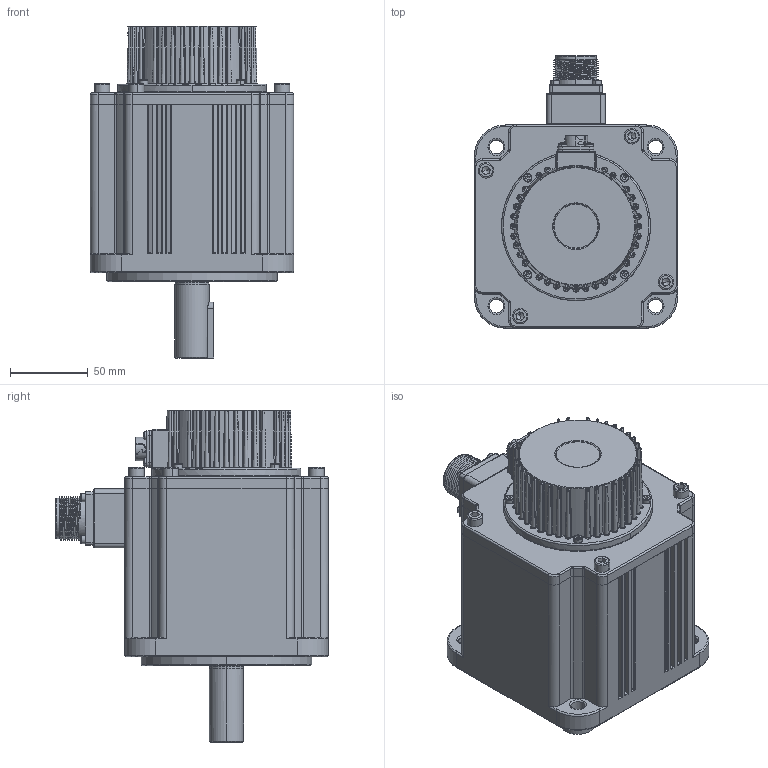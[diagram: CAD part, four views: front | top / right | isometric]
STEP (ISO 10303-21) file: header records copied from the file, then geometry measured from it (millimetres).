
FILE_DESCRIPTION (( 'STEP AP203' ), '1' );
FILE_NAME ('V9E-M13A-2R020-D1 - ¸±±¾.STEP', '2024-05-08T07:09:04', ( 'IT' ), ( '' ), 'SwSTEP 2.0', 'SolidWorks 2014', '' );
FILE_SCHEMA (( 'CONFIG_CONTROL_DESIGN' ));
Length unit declared in the file: millimetre
Products named in the file (23): 8x7x36瑩; SC瑤諾脣芛 CMS3102A18-10P-Z; SC_6204 Outer ring; SC_6204 Ball; pan head cross recess screw_din_ISO 7045 - M3 x 8 - Z --- 8C; 粣200907-56; 雄薯瑤脣釱200909; 囀鞠褒 M3X10; 雄薯盄釱砎蝶菜200910; E13B102BA1_9о; E13B101BA5-108.5; 囀鞠褒 M3X30; SC_6204 Inner ring; 瑤諾脣芛 SC-CMV1-R10P-1; V9E-M13A-2R020-D1 - 萵掛; SCGB／T276-94深沟球轴承6206-2Z; SC6204; 瑤脣蚾饜; 綴傷裔200903-4晚源倛; 蚐猾 D00B999YF7-TC 30-42-7; V7E#130定子组件-56（一体机身）; 囀鞠褒 M6X20; 130綴傷裔200917
Assembly tree (42 placements, depth 4):
  V9E-M13A-2R020-D1 - 萵掛
    囀鞠褒 M6X20  x4
    囀鞠褒 M3X10  x4
    蚐猾 D00B999YF7-TC 30-42-7
    130綴傷裔200917
      綴傷裔200903-4晚源倛
    SCGB／T276-94深沟球轴承6206-2Z
    SC6204
      SC_6204 Outer ring
      SC_6204 Inner ring
      SC_6204 Ball  x9
    粣200907-56
    8x7x36瑩
    V7E#130定子组件-56（一体机身）
      E13B101BA5-108.5
      瑤脣蚾饜
        雄薯瑤脣釱200909
        SC瑤諾脣芛 CMS3102A18-10P-Z
        雄薯盄釱砎蝶菜200910
        囀鞠褒 M3X30  x4
    E13B102BA1_9о
    瑤諾脣芛 SC-CMV1-R10P-1
    pan head cross recess screw_din_ISO 7045 - M3 x 8 - Z --- 8C  x4
Bounding box: 131 x 175.4 x 214 mm (x, y, z)
Volume: 855773.2 mm3; surface area: 308988.4 mm2
Topology: 39 solids, 39 shells, 2940 faces, 7120 edges, 4116 vertices
Faces by surface type: cylinder 940, plane 652, bspline 540, torus 383, cone 254, sphere 171
Entity records: 102137 total; most frequent: CARTESIAN_POINT 43089, ORIENTED_EDGE 12040, DIRECTION 11624, EDGE_CURVE 6020, AXIS2_PLACEMENT_3D 4945, VERTEX_POINT 3564, CIRCLE 2866, EDGE_LOOP 2788
